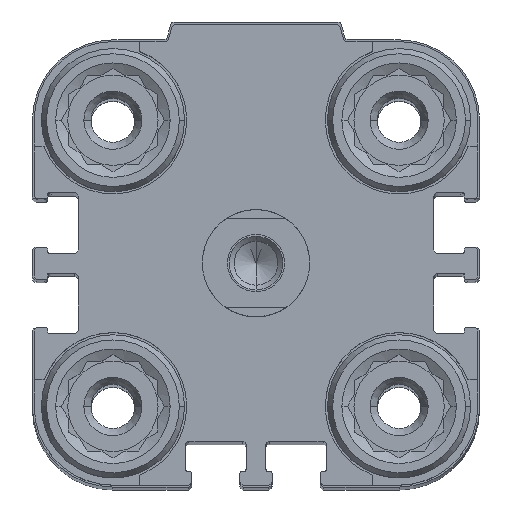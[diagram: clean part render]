
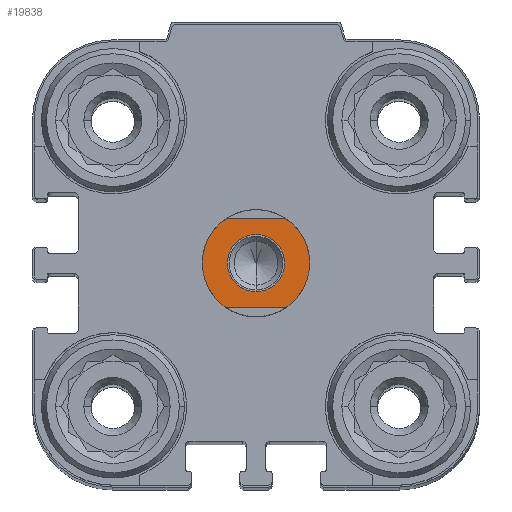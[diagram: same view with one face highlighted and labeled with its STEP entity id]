
A CAD part, top view. The second image highlights one B-rep face of the part: STEP entity #19838.
In plain terms, the highlighted planar face has unit normal (0, 0, 1).
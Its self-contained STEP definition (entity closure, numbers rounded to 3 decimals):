
#44 = CARTESIAN_POINT ( 'NONE',  ( -3.317, 5., 6. ) ) ;
#120 = CARTESIAN_POINT ( 'NONE',  ( 0., 0., 6. ) ) ;
#782 = CARTESIAN_POINT ( 'NONE',  ( 0., 0., 6. ) ) ;
#1032 = AXIS2_PLACEMENT_3D ( 'NONE', #18505, #6608, #13468 ) ;
#1195 = ORIENTED_EDGE ( 'NONE', *, *, #21505, .F. ) ;
#1198 = DIRECTION ( 'NONE',  ( 1., 0., 0. ) ) ;
#1750 = AXIS2_PLACEMENT_3D ( 'NONE', #9722, #20577, #16688 ) ;
#2285 = DIRECTION ( 'NONE',  ( 0., 0., -1. ) ) ;
#2827 = AXIS2_PLACEMENT_3D ( 'NONE', #120, #3415, #14269 ) ;
#3116 = CIRCLE ( 'NONE', #8240, 6. ) ;
#3415 = DIRECTION ( 'NONE',  ( 0., 0., -1. ) ) ;
#3639 = CARTESIAN_POINT ( 'NONE',  ( -3.317, -5., 6. ) ) ;
#4002 = FACE_BOUND ( 'NONE', #10902, .T. ) ;
#4247 = EDGE_LOOP ( 'NONE', ( #21038, #13619, #5538, #14705, #10355, #1195 ) ) ;
#4784 = CARTESIAN_POINT ( 'NONE',  ( -6., 0., 6. ) ) ;
#4886 = DIRECTION ( 'NONE',  ( 0., 0., -1. ) ) ;
#5073 = EDGE_CURVE ( 'NONE', #9998, #17970, #8396, .T. ) ;
#5538 = ORIENTED_EDGE ( 'NONE', *, *, #7392, .F. ) ;
#5614 = PLANE ( 'NONE',  #20121 ) ;
#6608 = DIRECTION ( 'NONE',  ( 0., 0., -1. ) ) ;
#6846 = VERTEX_POINT ( 'NONE', #20927 ) ;
#7264 = CARTESIAN_POINT ( 'NONE',  ( 6., 0., 6. ) ) ;
#7392 = EDGE_CURVE ( 'NONE', #16127, #7851, #11652, .T. ) ;
#7851 = VERTEX_POINT ( 'NONE', #4784 ) ;
#7989 = DIRECTION ( 'NONE',  ( -1., 0., 0. ) ) ;
#8007 = AXIS2_PLACEMENT_3D ( 'NONE', #782, #14715, #21240 ) ;
#8240 = AXIS2_PLACEMENT_3D ( 'NONE', #9817, #4886, #7989 ) ;
#8290 = ORIENTED_EDGE ( 'NONE', *, *, #13445, .T. ) ;
#8396 = LINE ( 'NONE', #20287, #14819 ) ;
#8414 = VERTEX_POINT ( 'NONE', #8530 ) ;
#8509 = VERTEX_POINT ( 'NONE', #7264 ) ;
#8530 = CARTESIAN_POINT ( 'NONE',  ( 3.317, -5., 6. ) ) ;
#9259 = DIRECTION ( 'NONE',  ( 0., 1., 0. ) ) ;
#9437 = VECTOR ( 'NONE', #21889, 1000. ) ;
#9722 = CARTESIAN_POINT ( 'NONE',  ( 0., 0., 6. ) ) ;
#9817 = CARTESIAN_POINT ( 'NONE',  ( 0., 0., 6. ) ) ;
#9980 = EDGE_CURVE ( 'NONE', #13739, #6846, #18655, .T. ) ;
#9998 = VERTEX_POINT ( 'NONE', #44 ) ;
#10355 = ORIENTED_EDGE ( 'NONE', *, *, #12074, .F. ) ;
#10880 = CIRCLE ( 'NONE', #1032, 6. ) ;
#10902 = EDGE_LOOP ( 'NONE', ( #20389, #8290 ) ) ;
#10985 = EDGE_CURVE ( 'NONE', #8414, #16127, #22223, .T. ) ;
#11652 = CIRCLE ( 'NONE', #8007, 6. ) ;
#12041 = DIRECTION ( 'NONE',  ( 0., 0., -1. ) ) ;
#12074 = EDGE_CURVE ( 'NONE', #8509, #8414, #21106, .T. ) ;
#13445 = EDGE_CURVE ( 'NONE', #6846, #13739, #15971, .T. ) ;
#13468 = DIRECTION ( 'NONE',  ( -1., 0., 0. ) ) ;
#13582 = CARTESIAN_POINT ( 'NONE',  ( 0., 3.2, 6. ) ) ;
#13619 = ORIENTED_EDGE ( 'NONE', *, *, #13694, .F. ) ;
#13694 = EDGE_CURVE ( 'NONE', #7851, #9998, #10880, .T. ) ;
#13739 = VERTEX_POINT ( 'NONE', #13582 ) ;
#14269 = DIRECTION ( 'NONE',  ( 0., 1., 0. ) ) ;
#14289 = CARTESIAN_POINT ( 'NONE',  ( 0., 0., 6. ) ) ;
#14359 = CARTESIAN_POINT ( 'NONE',  ( 3.317, 5., 6. ) ) ;
#14705 = ORIENTED_EDGE ( 'NONE', *, *, #10985, .F. ) ;
#14715 = DIRECTION ( 'NONE',  ( 0., 0., -1. ) ) ;
#14819 = VECTOR ( 'NONE', #1198, 1000. ) ;
#15129 = CARTESIAN_POINT ( 'NONE',  ( 10., -5., 6. ) ) ;
#15971 = CIRCLE ( 'NONE', #2827, 3.2 ) ;
#16127 = VERTEX_POINT ( 'NONE', #3639 ) ;
#16688 = DIRECTION ( 'NONE',  ( -1., 0., 0. ) ) ;
#17930 = AXIS2_PLACEMENT_3D ( 'NONE', #18906, #12041, #21059 ) ;
#17970 = VERTEX_POINT ( 'NONE', #14359 ) ;
#18505 = CARTESIAN_POINT ( 'NONE',  ( 0., 0., 6. ) ) ;
#18655 = CIRCLE ( 'NONE', #17930, 3.2 ) ;
#18906 = CARTESIAN_POINT ( 'NONE',  ( 0., 0., 6. ) ) ;
#19838 = ADVANCED_FACE ( 'NONE', ( #21379, #4002 ), #5614, .F. ) ;
#20121 = AXIS2_PLACEMENT_3D ( 'NONE', #14289, #2285, #9259 ) ;
#20287 = CARTESIAN_POINT ( 'NONE',  ( -10., 5., 6. ) ) ;
#20389 = ORIENTED_EDGE ( 'NONE', *, *, #9980, .T. ) ;
#20577 = DIRECTION ( 'NONE',  ( 0., 0., -1. ) ) ;
#20927 = CARTESIAN_POINT ( 'NONE',  ( 0., -3.2, 6. ) ) ;
#21038 = ORIENTED_EDGE ( 'NONE', *, *, #5073, .F. ) ;
#21059 = DIRECTION ( 'NONE',  ( 0., 1., 0. ) ) ;
#21106 = CIRCLE ( 'NONE', #1750, 6. ) ;
#21240 = DIRECTION ( 'NONE',  ( -1., 0., 0. ) ) ;
#21379 = FACE_OUTER_BOUND ( 'NONE', #4247, .T. ) ;
#21505 = EDGE_CURVE ( 'NONE', #17970, #8509, #3116, .T. ) ;
#21889 = DIRECTION ( 'NONE',  ( -1., 0., 0. ) ) ;
#22223 = LINE ( 'NONE', #15129, #9437 ) ;
